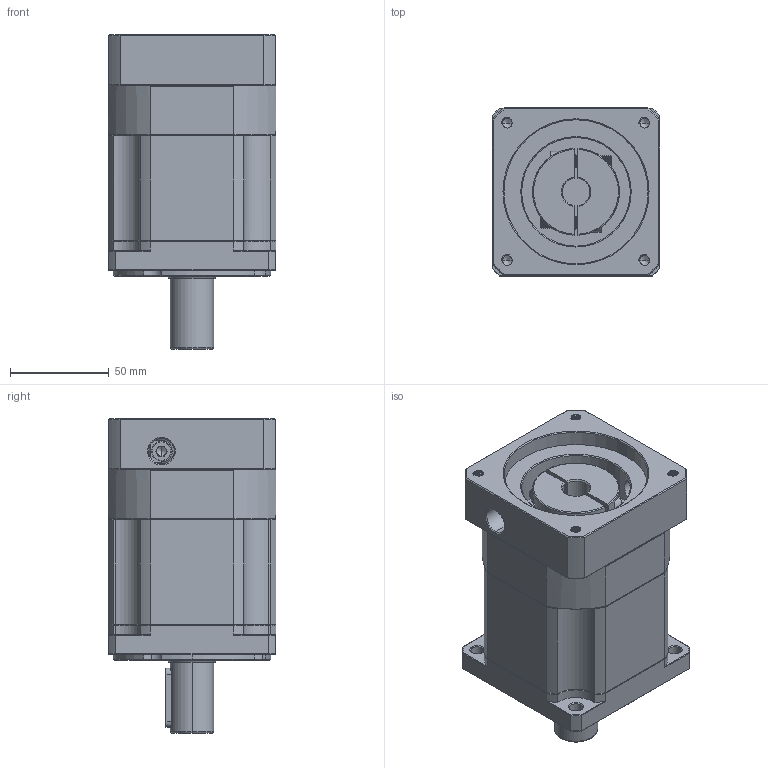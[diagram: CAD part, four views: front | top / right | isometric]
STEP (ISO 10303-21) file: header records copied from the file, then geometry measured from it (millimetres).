
FILE_DESCRIPTION (( 'STEP AP214' ), '1' );
FILE_NAME ('ZB90-D22-L2-14-73-69.5X69.5-M6.STEP', '2022-05-02T15:36:15', ( '' ), ( 'Microsoft' ), 'SwSTEP 2.0', 'SolidWorks 2016', '' );
FILE_SCHEMA (( 'AUTOMOTIVE_DESIGN' ));
Length unit declared in the file: millimetre
Products named in the file (1): ZB90-D22-L2-14-73-69.5X69.5-M6
Bounding box: 85 x 85 x 159.5 mm (x, y, z)
Volume: 730241.1 mm3; surface area: 92212.7 mm2
Topology: 4 solids, 5 shells, 1942 faces, 5071 edges, 3209 vertices
Faces by surface type: plane 886, cylinder 396, cone 334, bspline 299, torus 27
Entity records: 104767 total; most frequent: CARTESIAN_POINT 38436, ORIENTED_EDGE 10098, DIRECTION 8197, EDGE_CURVE 5049, VERTEX_POINT 3209, LINE 3101, VECTOR 3101, AXIS2_PLACEMENT_3D 2548
